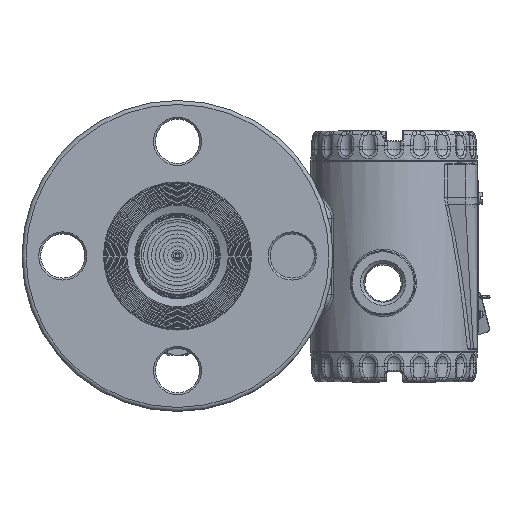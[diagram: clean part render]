
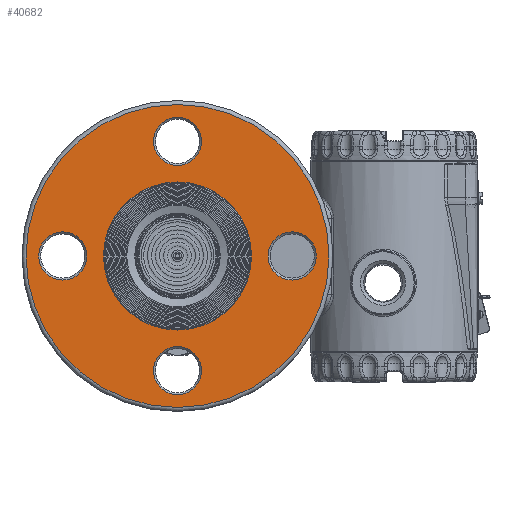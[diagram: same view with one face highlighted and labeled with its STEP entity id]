
A CAD part, top view. The second image highlights one B-rep face of the part: STEP entity #40682.
In plain terms, the highlighted planar face has unit normal (0, 0, 1).
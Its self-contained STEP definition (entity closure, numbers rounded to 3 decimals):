
#685=FACE_BOUND('',#6747,.T.);
#686=FACE_BOUND('',#6748,.T.);
#687=FACE_BOUND('',#6749,.T.);
#688=FACE_BOUND('',#6750,.T.);
#689=FACE_BOUND('',#6751,.T.);
#2639=PLANE('',#45264);
#4037=FACE_OUTER_BOUND('',#6746,.T.);
#6746=EDGE_LOOP('',(#31134));
#6747=EDGE_LOOP('',(#31135));
#6748=EDGE_LOOP('',(#31136));
#6749=EDGE_LOOP('',(#31137));
#6750=EDGE_LOOP('',(#31138));
#6751=EDGE_LOOP('',(#31139,#31140));
#13433=CIRCLE('',#45259,36.9);
#13437=CIRCLE('',#45263,36.9);
#13438=CIRCLE('',#45265,75.5);
#13439=CIRCLE('',#45266,12.);
#13440=CIRCLE('',#45267,12.);
#13441=CIRCLE('',#45268,12.);
#13442=CIRCLE('',#45269,12.);
#17847=VERTEX_POINT('',#72047);
#17848=VERTEX_POINT('',#72048);
#17851=VERTEX_POINT('',#72057);
#17852=VERTEX_POINT('',#72059);
#17853=VERTEX_POINT('',#72061);
#17854=VERTEX_POINT('',#72063);
#17855=VERTEX_POINT('',#72065);
#22555=EDGE_CURVE('',#17847,#17848,#13433,.T.);
#22559=EDGE_CURVE('',#17848,#17847,#13437,.T.);
#22560=EDGE_CURVE('',#17851,#17851,#13438,.T.);
#22561=EDGE_CURVE('',#17852,#17852,#13439,.T.);
#22562=EDGE_CURVE('',#17853,#17853,#13440,.T.);
#22563=EDGE_CURVE('',#17854,#17854,#13441,.T.);
#22564=EDGE_CURVE('',#17855,#17855,#13442,.T.);
#31134=ORIENTED_EDGE('',*,*,#22560,.F.);
#31135=ORIENTED_EDGE('',*,*,#22561,.F.);
#31136=ORIENTED_EDGE('',*,*,#22562,.F.);
#31137=ORIENTED_EDGE('',*,*,#22563,.F.);
#31138=ORIENTED_EDGE('',*,*,#22564,.F.);
#31139=ORIENTED_EDGE('',*,*,#22555,.F.);
#31140=ORIENTED_EDGE('',*,*,#22559,.F.);
#40682=ADVANCED_FACE('',(#4037,#685,#686,#687,#688,#689),#2639,.T.);
#45259=AXIS2_PLACEMENT_3D('',#72049,#53370,#53371);
#45263=AXIS2_PLACEMENT_3D('',#72055,#53378,#53379);
#45264=AXIS2_PLACEMENT_3D('',#72056,#53380,#53381);
#45265=AXIS2_PLACEMENT_3D('',#72058,#53382,#53383);
#45266=AXIS2_PLACEMENT_3D('',#72060,#53384,#53385);
#45267=AXIS2_PLACEMENT_3D('',#72062,#53386,#53387);
#45268=AXIS2_PLACEMENT_3D('',#72064,#53388,#53389);
#45269=AXIS2_PLACEMENT_3D('',#72066,#53390,#53391);
#53370=DIRECTION('center_axis',(0.,0.,1.));
#53371=DIRECTION('ref_axis',(-1.,0.,0.));
#53378=DIRECTION('center_axis',(0.,0.,1.));
#53379=DIRECTION('ref_axis',(-1.,0.,0.));
#53380=DIRECTION('center_axis',(0.,0.,1.));
#53381=DIRECTION('ref_axis',(1.,0.,0.));
#53382=DIRECTION('center_axis',(0.,0.,-1.));
#53383=DIRECTION('ref_axis',(-1.,0.,0.));
#53384=DIRECTION('center_axis',(0.,0.,1.));
#53385=DIRECTION('ref_axis',(-1.,0.,0.));
#53386=DIRECTION('center_axis',(0.,0.,1.));
#53387=DIRECTION('ref_axis',(0.,1.,0.));
#53388=DIRECTION('center_axis',(0.,0.,1.));
#53389=DIRECTION('ref_axis',(1.,0.,0.));
#53390=DIRECTION('center_axis',(0.,0.,1.));
#53391=DIRECTION('ref_axis',(0.,-1.,0.));
#72047=CARTESIAN_POINT('',(36.9,0.,19.));
#72048=CARTESIAN_POINT('',(-36.9,0.,19.));
#72049=CARTESIAN_POINT('Origin',(0.,0.,19.));
#72055=CARTESIAN_POINT('Origin',(0.,0.,19.));
#72056=CARTESIAN_POINT('Origin',(0.,0.,
19.));
#72057=CARTESIAN_POINT('',(75.5,0.,19.));
#72058=CARTESIAN_POINT('Origin',(0.,0.,19.));
#72059=CARTESIAN_POINT('',(12.,57.15,19.));
#72060=CARTESIAN_POINT('Origin',(0.,57.15,19.));
#72061=CARTESIAN_POINT('',(57.15,-12.,19.));
#72062=CARTESIAN_POINT('Origin',(57.15,0.,19.));
#72063=CARTESIAN_POINT('',(-12.,-57.15,19.));
#72064=CARTESIAN_POINT('Origin',(0.,-57.15,19.));
#72065=CARTESIAN_POINT('',(-57.15,12.,19.));
#72066=CARTESIAN_POINT('Origin',(-57.15,0.,19.));
